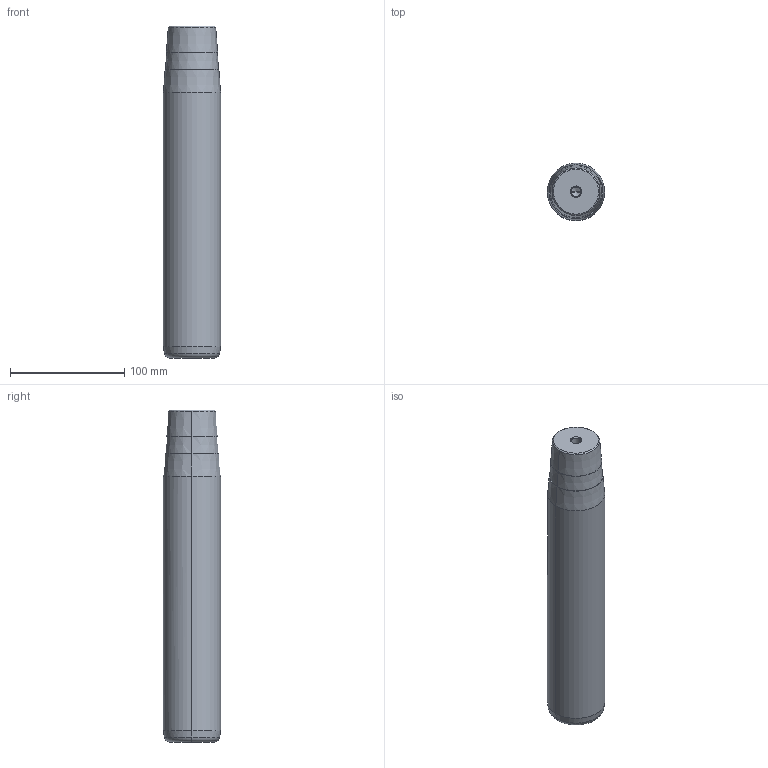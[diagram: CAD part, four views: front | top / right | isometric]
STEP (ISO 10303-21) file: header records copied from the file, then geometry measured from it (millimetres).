
FILE_DESCRIPTION(('CATIA V5 STEP Exchange'),'2;1');
FILE_NAME('C:\Users\Utente\Desktop\IO LAVORO\3D X SITO CF\X SITO\722\722-50x250x290.stp','2021-01-07T19:38:35+00:00',('none'),('none'),'CATIA Version 5 Release 20 GA (IN-10)','CATIA V5 STEP AP203','none');
FILE_SCHEMA(('CONFIG_CONTROL_DESIGN'));
Length unit declared in the file: millimetre
Products named in the file (1): 722-50x250x290
Bounding box: 50 x 50 x 290 mm (x, y, z)
Volume: 545693.5 mm3; surface area: 48952 mm2
Topology: 1 solids, 1 shells, 32 faces, 66 edges, 34 vertices
Faces by surface type: cone 22, cylinder 6, plane 2, torus 2
Entity records: 866 total; most frequent: CARTESIAN_POINT 189, ORIENTED_EDGE 124, DIRECTION 123, AXIS2_PLACEMENT_3D 64, EDGE_CURVE 62, EDGE_LOOP 34, VERTEX_POINT 34, ADVANCED_FACE 32
